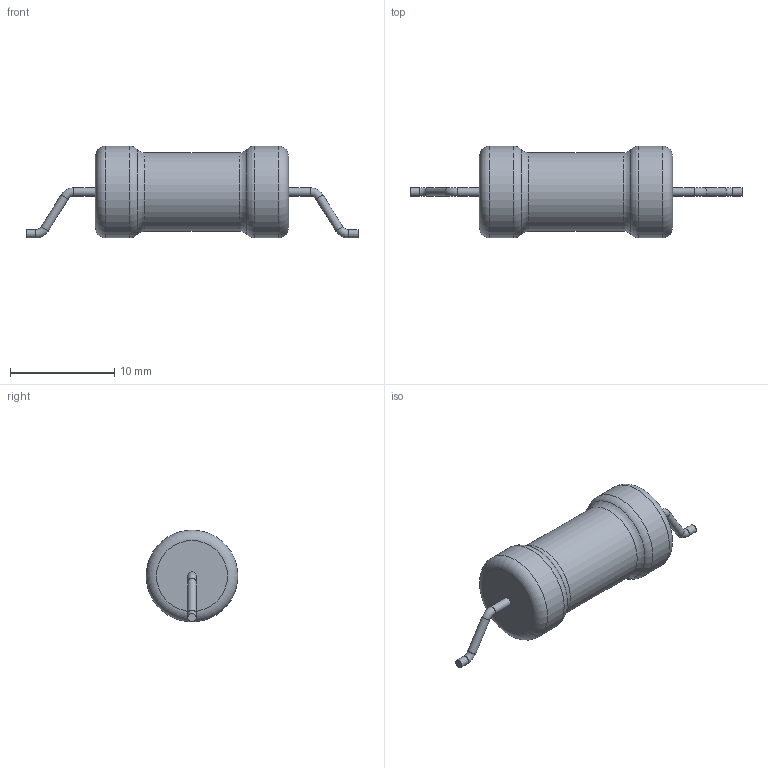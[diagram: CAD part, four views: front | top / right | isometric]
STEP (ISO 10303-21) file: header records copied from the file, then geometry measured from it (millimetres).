
FILE_DESCRIPTION(('STEP AP203'), '1');
FILE_NAME('C2-33-2 (3)', '', ('UNSPECIFIED'), ('UNSPECIFIED'), 'ASCON STEP Converter 1.6', 'ASCON Math Kernel', '');
FILE_SCHEMA(('CONFIG_CONTROL_DESIGN'));
Length unit declared in the file: millimetre
Bounding box: 31.8 x 8.8 x 8.8 mm (x, y, z)
Volume: 949.1 mm3; surface area: 618.9 mm2
Topology: 1 solids, 1 shells, 23 faces, 41 edges, 22 vertices
Faces by surface type: torus 10, cylinder 9, plane 4
Full cylindrical faces by diameter (mm): 0.8 x6, 7.517 x1, 8.8 x2
Entity records: 682 total; most frequent: DIRECTION 92, CARTESIAN_POINT 68, AXIS2_PLACEMENT_3D 46, EDGE_LOOP 44, ORIENTED_EDGE 44, FACE_OUTER_BOUND 38, COLOUR_RGB 24, FILL_AREA_STYLE_COLOUR 24
